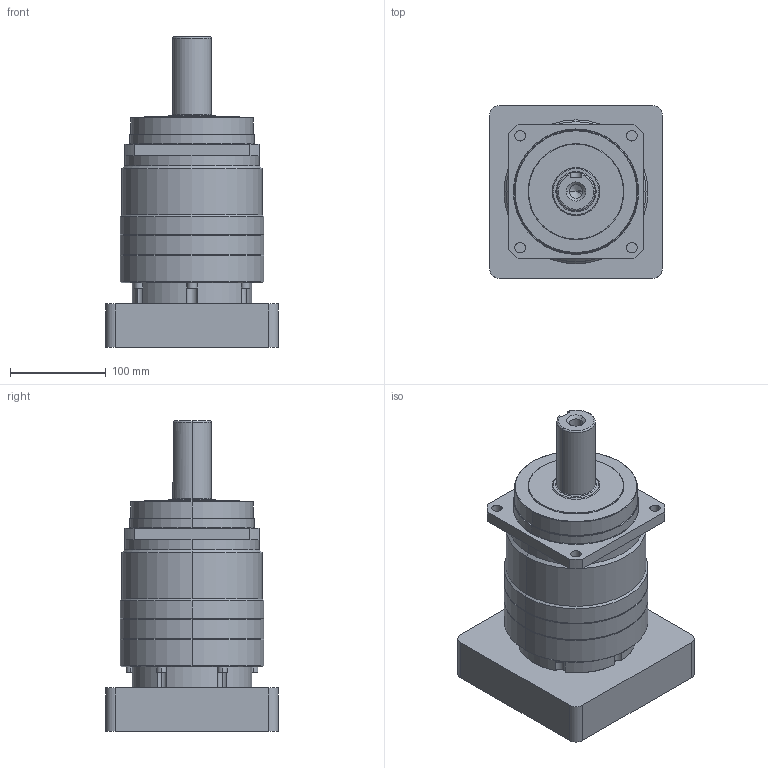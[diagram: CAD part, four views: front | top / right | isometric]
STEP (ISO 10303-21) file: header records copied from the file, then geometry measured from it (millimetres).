
FILE_DESCRIPTION (( 'STEP AP214' ), '1' );
FILE_NAME ('VRS140-L2-S2-P1 35-114.3-200-M12.STEP', '2023-09-01T01:58:49', ( '微软用户' ), ( '微软中国' ), 'SwSTEP 2.0', 'SolidWorks 2018', '' );
FILE_SCHEMA (( 'AUTOMOTIVE_DESIGN' ));
Length unit declared in the file: millimetre
Products named in the file (1): VRS140-L2-S2-P1 35-114.3-200-M12
Bounding box: 180 x 180 x 323.5 mm (x, y, z)
Volume: 4327204.1 mm3; surface area: 248406.2 mm2
Topology: 1 solids, 1 shells, 209 faces, 486 edges, 304 vertices
Faces by surface type: plane 82, cylinder 79, cone 39, torus 9
Entity records: 6087 total; most frequent: DIRECTION 1101, CARTESIAN_POINT 1101, ORIENTED_EDGE 968, EDGE_CURVE 484, AXIS2_PLACEMENT_3D 422, VERTEX_POINT 304, LINE 257, VECTOR 257
